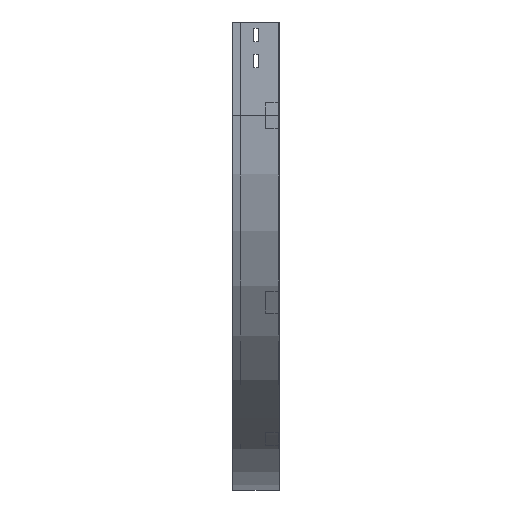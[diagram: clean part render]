
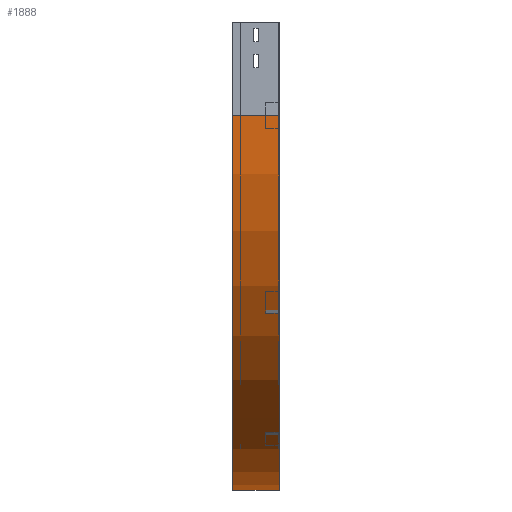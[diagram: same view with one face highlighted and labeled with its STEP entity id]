
A CAD part, left-side view. The second image highlights one B-rep face of the part: STEP entity #1888.
In plain terms, the highlighted cylindrical face has radius 600 mm (diameter 1200 mm), a partial arc.
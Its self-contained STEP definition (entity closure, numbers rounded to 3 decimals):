
#13 = ORIENTED_EDGE ( 'NONE', *, *, #1248, .T. ) ;
#127 = VERTEX_POINT ( 'NONE', #1245 ) ;
#194 = VERTEX_POINT ( 'NONE', #3832 ) ;
#207 = AXIS2_PLACEMENT_3D ( 'NONE', #388, #1807, #1218 ) ;
#388 = CARTESIAN_POINT ( 'NONE',  ( 600., 75., -150. ) ) ;
#433 = CARTESIAN_POINT ( 'NONE',  ( 600., 0., -150. ) ) ;
#444 = CARTESIAN_POINT ( 'NONE',  ( 0., 0., -150. ) ) ;
#1052 = DIRECTION ( 'NONE',  ( 0., -1., 0. ) ) ;
#1095 = DIRECTION ( 'NONE',  ( 0., -1., 0. ) ) ;
#1109 = AXIS2_PLACEMENT_3D ( 'NONE', #433, #1095, #2270 ) ;
#1177 = ORIENTED_EDGE ( 'NONE', *, *, #1387, .F. ) ;
#1218 = DIRECTION ( 'NONE',  ( -1., 0., 0. ) ) ;
#1245 = CARTESIAN_POINT ( 'NONE',  ( 0., 0., -150. ) ) ;
#1248 = EDGE_CURVE ( 'NONE', #3129, #3453, #2806, .T. ) ;
#1256 = CARTESIAN_POINT ( 'NONE',  ( 0., 75., -150. ) ) ;
#1364 = LINE ( 'NONE', #444, #2300 ) ;
#1387 = EDGE_CURVE ( 'NONE', #3129, #127, #1364, .T. ) ;
#1479 = DIRECTION ( 'NONE',  ( 0., -1., 0. ) ) ;
#1627 = DIRECTION ( 'NONE',  ( 0., -1., 0. ) ) ;
#1748 = EDGE_CURVE ( 'NONE', #127, #194, #3346, .T. ) ;
#1776 = CYLINDRICAL_SURFACE ( 'NONE', #2042, 600. ) ;
#1807 = DIRECTION ( 'NONE',  ( 0., -1., 0. ) ) ;
#1857 = CARTESIAN_POINT ( 'NONE',  ( 600., 75., -750. ) ) ;
#1888 = ADVANCED_FACE ( 'NONE', ( #3850 ), #1776, .T. ) ;
#1928 = CARTESIAN_POINT ( 'NONE',  ( 600., 0., -750. ) ) ;
#2042 = AXIS2_PLACEMENT_3D ( 'NONE', #2895, #1479, #3513 ) ;
#2176 = EDGE_LOOP ( 'NONE', ( #2240, #1177, #13, #3769 ) ) ;
#2195 = EDGE_CURVE ( 'NONE', #3453, #194, #3697, .T. ) ;
#2240 = ORIENTED_EDGE ( 'NONE', *, *, #1748, .F. ) ;
#2270 = DIRECTION ( 'NONE',  ( -1., 0., 0. ) ) ;
#2300 = VECTOR ( 'NONE', #1052, 1000. ) ;
#2806 = CIRCLE ( 'NONE', #207, 600. ) ;
#2854 = VECTOR ( 'NONE', #1627, 1000. ) ;
#2895 = CARTESIAN_POINT ( 'NONE',  ( 600., 0., -150. ) ) ;
#3129 = VERTEX_POINT ( 'NONE', #1256 ) ;
#3346 = CIRCLE ( 'NONE', #1109, 600. ) ;
#3453 = VERTEX_POINT ( 'NONE', #1857 ) ;
#3513 = DIRECTION ( 'NONE',  ( 0., 0., -1. ) ) ;
#3697 = LINE ( 'NONE', #1928, #2854 ) ;
#3769 = ORIENTED_EDGE ( 'NONE', *, *, #2195, .T. ) ;
#3832 = CARTESIAN_POINT ( 'NONE',  ( 600., 0., -750. ) ) ;
#3850 = FACE_OUTER_BOUND ( 'NONE', #2176, .T. ) ;
